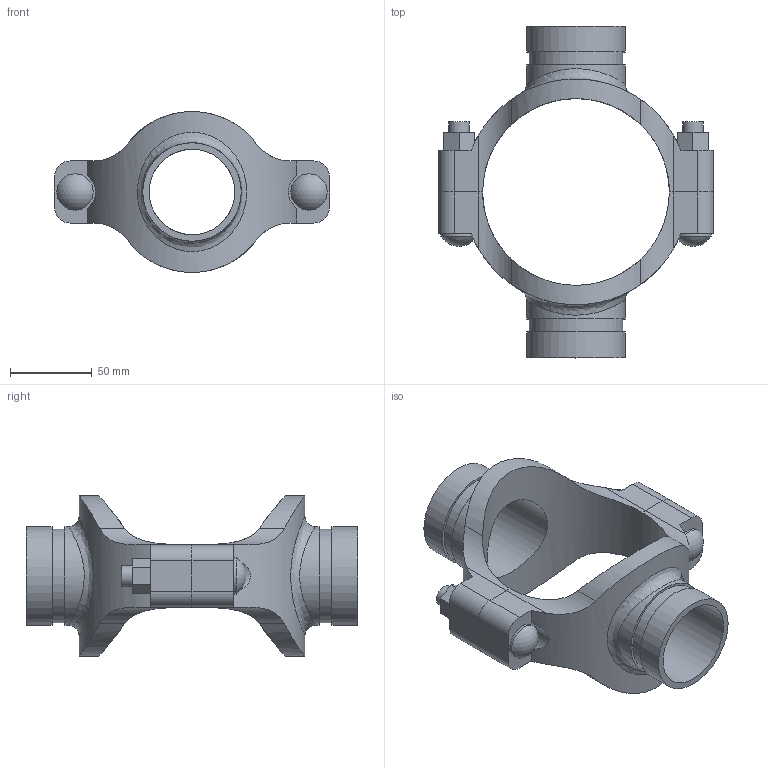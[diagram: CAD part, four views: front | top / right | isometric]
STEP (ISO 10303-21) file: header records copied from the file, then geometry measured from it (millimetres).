
FILE_DESCRIPTION(/* description */ ('VIC MECH-T BRANCH OUTLET CROSS STYLE 920N (GRVD)','CAx-IF Rec.Pracs.---Representation and Presentation of Product Manufacturing Information (PMI)---4.0---2014-10-13'),/* implementation_level */ '2;1');
FILE_NAME(/* name */ 'C:\Users\Vjadhav\AppData\Roaming\Autodesk\ApplicationPlugins\Back Up\Victaulic_IPS_Mechanical-Cross Outlet_Style 920N (OGS)\Victaulic_IPS_Mechanical-Cross Outlet_04.0x02.0x02.0 (100x50x50).stp',/* time_stamp */ '2020-08-06T19:43:50+05:00',/* author */ ('Vjadhav'),/* organization */ ('Victaulic'),/* preprocessor_version */ 'ST-DEVELOPER v17.2',/* originating_system */ 'Autodesk Inventor 2019',/* authorisation */ '');
FILE_SCHEMA (('AP242_MANAGED_MODEL_BASED_3D_ENGINEERING_MIM_LF { 1 0 10303 442 1 1 4 }'));
Length unit declared in the file: inch
Products named in the file (3): 920NG-04.0x02.0x02.0; 920NG-04.0x02.0; 920NG-04.0x02.0_1
Assembly tree (2 placements, depth 2):
  920NG-04.0x02.0x02.0
    920NG-04.0x02.0
    920NG-04.0x02.0_1
Bounding box: 168.4 x 203.2 x 98.44 mm (x, y, z)
Volume: 341713.8 mm3; surface area: 101365.9 mm2
Topology: 2 solids, 2 shells, 108 faces, 274 edges, 186 vertices
Faces by surface type: plane 54, cylinder 50, sphere 2, bspline 2
Full cylindrical faces by diameter (mm): 12.7 x4, 22.225 x2, 52.387 x2, 57.15 x2, 60.325 x4
Entity records: 4430 total; most frequent: CARTESIAN_POINT 1549, DIRECTION 552, ORIENTED_EDGE 548, EDGE_CURVE 274, AXIS2_PLACEMENT_3D 201, VERTEX_POINT 186, LINE 150, VECTOR 150
